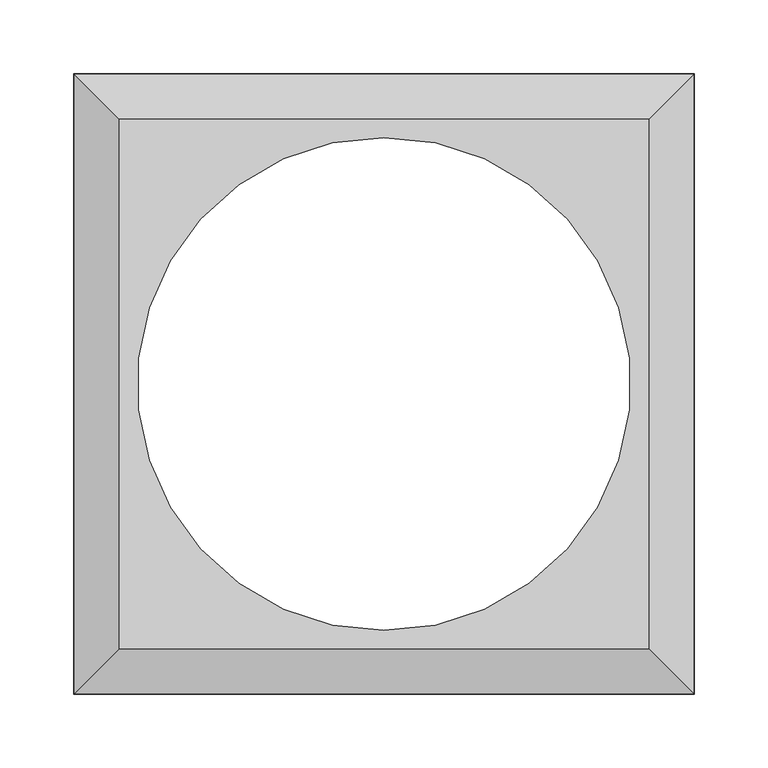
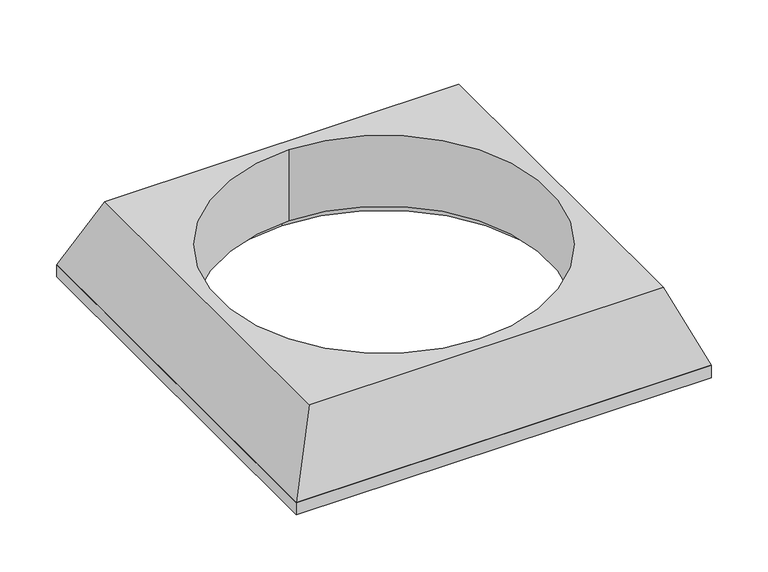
"""IFC4 building model written with IfcOpenShell, lengths in millimetres: valve geometry, Pipelife - Studnia PRO - Stożek odciążający 315 pod teleskop klasy D : Stożek odciążający TX315N355U."""

from ifc_helpers import new_model, si_unit, point, frame, origin, origin_with_axes, origin_2d, place, context, project, spatial, polyline, circle_curve, trimmed, segment, composite_curve, outline, extrude, source, transform, mapped, element, save
from ifc_brep_helpers import plane_surface, revolved_surface, advanced_brep


def valve_9825414c(model_context):
    return source(origin(), model_context, "Body", "SolidModel", [
        extrude(outline(polyline([(211.0, 211.0), (211.0, -211.0), (-211.0, -211.0), (-211.0, 211.0), (211.0, 211.0)]), holes=[composite_curve([segment(trimmed(circle_curve(origin_2d(), 180.0), [point((0.0, 180.0))], [point((0.0, -180.0))], True, "CARTESIAN"), True, "CONTINUOUS"), segment(trimmed(circle_curve(origin_2d(), 180.0), [point((0.0, -180.0))], [point((0.0, 180.0))], True, "CARTESIAN"), True, "CONTINUOUS")], self_intersect=False)]), origin_with_axes(), (0.0, 0.0, 1.0), 13.0),
        advanced_brep(
        [(0.0, -167.5, 89.0), (0.0, -167.5, 13.0), (0.0, 167.5, 13.0), (0.0, 167.5, 89.0), (180.0, 180.0, 89.0), (-180.0, 180.0, 89.0), (-180.0, -180.0, 89.0), (180.0, -180.0, 89.0), (211.0, 211.0, 13.0), (211.0, -211.0, 13.0), (-211.0, -211.0, 13.0), (-211.0, 211.0, 13.0)],
        [
            (0, 1),
            (1, 2, circle_curve(frame((0.0, 0.0, 13.0), z_axis=(0.0, 0.0, -1.0), x_axis=(0.0, -1.0, 0.0)), 167.5)),
            (2, 3),
            (3, 0, circle_curve(frame((0.0, 0.0, 89.0), z_axis=(0.0, 0.0, 1.0), x_axis=(0.0, -1.0, 0.0)), 167.5)),
            (0, 3, circle_curve(frame((0.0, 0.0, 89.0), z_axis=(0.0, 0.0, 1.0), x_axis=(0.0, -1.0, 0.0)), 167.5)),
            (2, 1, circle_curve(frame((0.0, 0.0, 13.0), z_axis=(0.0, 0.0, -1.0), x_axis=(0.0, -1.0, 0.0)), 167.5)),
            (4, 5),
            (5, 6),
            (6, 7),
            (7, 4),
            (8, 9),
            (9, 10),
            (10, 11),
            (11, 8),
            (4, 8),
            (11, 5),
            (10, 6),
            (9, 7),
        ],
        [
            revolved_surface(polyline([(0.0, -167.5, 89.0), (0.0, -167.5, 13.0)]), (0.0, 0.0, 89.0), (0.0, 0.0, 1.0)),
            plane_surface(frame((0.0, 0.0, 89.0), z_axis=(0.0, 0.0, 1.0), x_axis=(-1.0, 0.0, 0.0))),
            plane_surface(frame((0.0, 0.0, 13.0), z_axis=(0.0, 0.0, -1.0), x_axis=(-1.0, 0.0, 0.0))),
            plane_surface(frame((0.0, 211.0, 13.0), z_axis=(0.0, 0.9259346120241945, 0.3776838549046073), x_axis=(-1.0, 0.0, 0.0))),
            plane_surface(frame((-211.0, 0.0, 13.0), z_axis=(-0.925934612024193, 0.0, 0.3776838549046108), x_axis=(0.0, -1.0, 0.0))),
            plane_surface(frame((0.0, -211.0, 13.0), z_axis=(0.0, -0.9259346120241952, 0.37768385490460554), x_axis=(1.0, 0.0, 0.0))),
            plane_surface(frame((211.0, 0.0, 13.0), z_axis=(0.9259346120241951, 0.0, 0.37768385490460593), x_axis=(0.0, 1.0, 0.0))),
        ],
        [
            (0, [[1, 2, 3, 4]]),
            (0, [[-1, 5, -3, 6]]),
            (1, [[7, 8, 9, 10], [-4, -5]]),
            (2, [[11, 12, 13, 14], [-2, -6]]),
            (3, [[-7, 15, -14, 16]]),
            (4, [[-8, -16, -13, 17]]),
            (5, [[-9, -17, -12, 18]]),
            (6, [[-10, -18, -11, -15]]),
        ],
    ),
    ])


if __name__ == "__main__":
    model = new_model("IFC4")
    model_context = context("Model", 3, world=origin())
    ifc_project = project(units=[si_unit("LENGTHUNIT", "METRE", prefix="MILLI")], contexts=[model_context])
    site = spatial("IfcSite", under=ifc_project)
    building = spatial("IfcBuilding", under=site)
    placement = place(None, origin())
    valve_shape = valve_9825414c(model_context)
    element("IfcValve", 1, ObjectType="Pipelife - Studnia PRO - Stożek odciążający 315 pod teleskop klasy D : Stożek odciążający TX315N355U", at=placement, inside=building, context=model_context, shape_type="MappedRepresentation", body=[
        mapped(valve_shape, transform((0.0, 0.0, 0.0), x_axis=(1.0, 0.0, 0.0), y_axis=(0.0, 1.0, 0.0), z_axis=(0.0, 0.0, 1.0))),
    ])
    save(model, "model.ifc")
